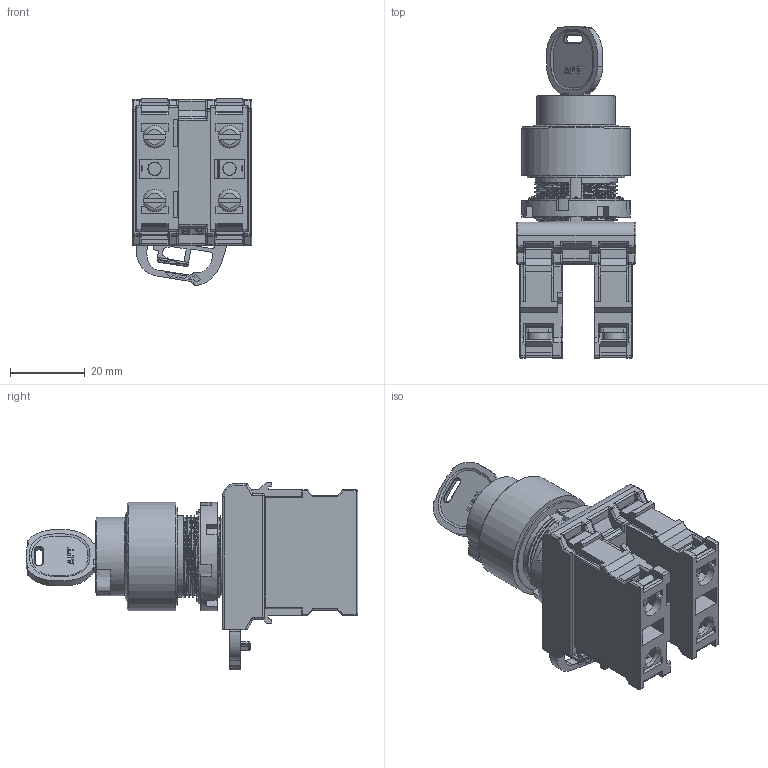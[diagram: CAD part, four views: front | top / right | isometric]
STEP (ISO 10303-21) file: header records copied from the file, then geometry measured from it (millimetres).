
FILE_DESCRIPTION(/* description */ (''),/* implementation_level */ '2;1');
FILE_NAME(/* name */ '钥匙钮 _stp.stp',/* time_stamp */ '2021-06-28T09:37:23+08:00',/* author */ (''),/* organization */ (''),/* preprocessor_version */ 'ST-DEVELOPER v16.7',/* originating_system */ 'SIEMENS PLM Software NX 12.0',/* authorisation */ '');
FILE_SCHEMA (('AUTOMOTIVE_DESIGN { 1 0 10303 214 3 1 1 1 }'));
Products named in the file (1): z004666846F3e0et
Bounding box: 32 x 88.61 x 50.02 mm (x, y, z)
Volume: 41857.3 mm3; surface area: 25961.9 mm2
Topology: 1 solids, 22 shells, 2220 faces, 6077 edges, 3895 vertices
Faces by surface type: plane 1570, cylinder 422, bspline 148, sphere 42, torus 26, cone 12
Full cylindrical faces by diameter (mm): 1.5 x1, 2 x1, 2.6 x1, 3.5 x3, 3.6 x1, 4.2 x1, 4.397 x2, 6 x8, 15.25 x1, 15.85 x1, 16 x1, 19 x1, 20.6 x1, 21 x1, 22 x1, 25.3 x1, 25.5 x1, 26 x1, 29 x2
Entity records: 98990 total; most frequent: CARTESIAN_POINT 29788, ORIENTED_EDGE 11914, DIRECTION 10425, EDGE_CURVE 5957, LINE 4511, VECTOR 4511, VERTEX_POINT 3848, AXIS2_PLACEMENT_3D 2957
